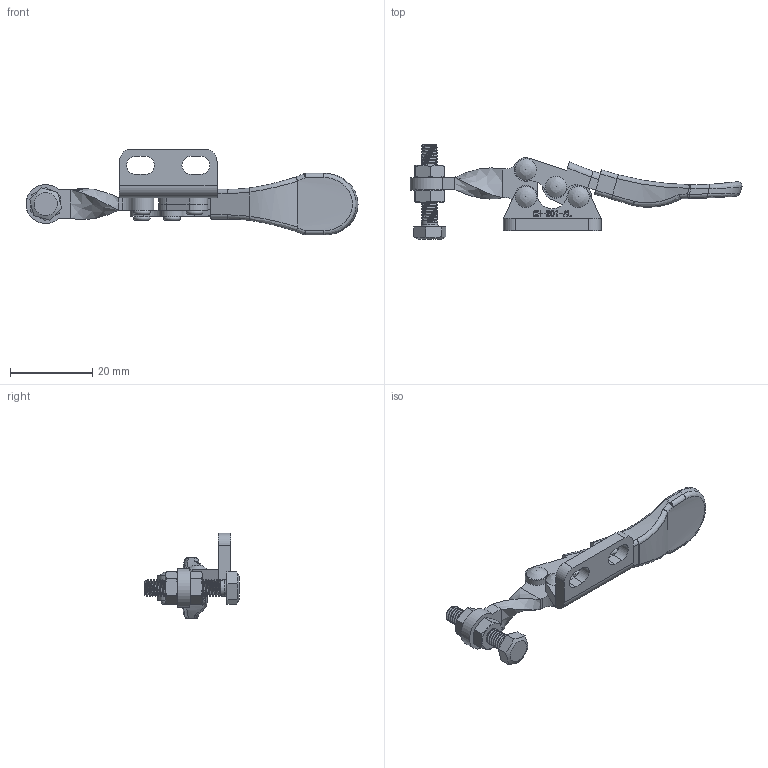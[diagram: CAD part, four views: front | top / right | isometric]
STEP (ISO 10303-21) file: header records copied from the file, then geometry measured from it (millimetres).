
FILE_DESCRIPTION(/* description */ ('STEP AP203'),/* implementation_level */ '2;1');
FILE_NAME(/* name */ 'E:\STRONA\Horizontal toggle clamp\CH-201-AL\CH-201-AL_ZAMKNIETY.stp',/* time_stamp */ '2019-01-15T12:26:14+01:00',/* author */ ('Admin'),/* organization */ ('·L?¤¤?'),/* preprocessor_version */ 'ST-DEVELOPER v17.2',/* originating_system */ 'Autodesk Inventor 2019',/* authorisation */ '');
FILE_SCHEMA (('AUTOMOTIVE_DESIGN { 1 0 10303 214 3 1 1 }'));
Length unit declared in the file: millimetre
Products named in the file (10): CH-201-AL_ZAMKNIETY; 201-AL-01___; 201-A-02___; CH-SA-042007___; M4___; 201-06___; 201-03___; 201-A-03___; 201-05___; 201-A-04___
Assembly tree (14 placements, depth 3):
  CH-201-AL_ZAMKNIETY
    201-AL-01___
    M4___  x2
    201-A-02___
    201-06___  x4
    CH-SA-042007___
    201-A-04___  x2
    201-03___
      201-A-03___
      201-05___
Bounding box: 80.9 x 23.03 x 20.94 mm (x, y, z)
Volume: 4335.8 mm3; surface area: 7075.2 mm2
Topology: 13 solids, 13 shells, 593 faces, 1633 edges, 1091 vertices
Faces by surface type: plane 248, bspline 195, cylinder 111, torus 19, cone 14, sphere 6
Full cylindrical faces by diameter (mm): 0.7 x1, 1.1 x1, 2.4 x4, 3 x16, 3.2 x4, 4 x26, 4.3 x1
Entity records: 46770 total; most frequent: CARTESIAN_POINT 33754, ORIENTED_EDGE 3002, DIRECTION 1989, EDGE_CURVE 1501, VERTEX_POINT 1002, LINE 805, VECTOR 805, EDGE_LOOP 603
